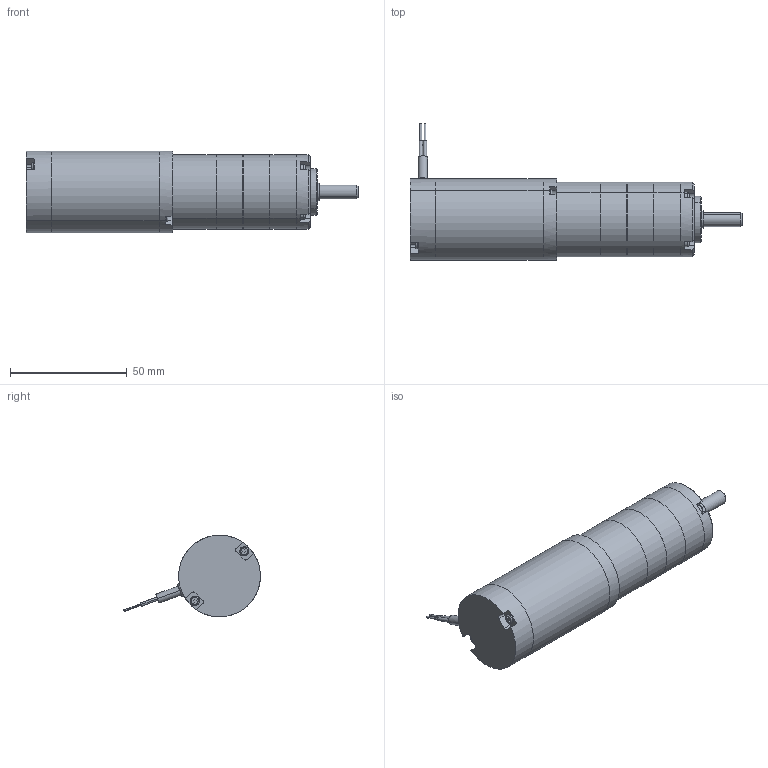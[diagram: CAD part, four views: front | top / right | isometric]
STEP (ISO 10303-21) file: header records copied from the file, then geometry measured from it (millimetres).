
FILE_DESCRIPTION (( 'STEP AP203' ), '1' );
FILE_NAME ('s14247gp3.step', '2018-12-07T19:52:15', ( '' ), ( '' ), 'SwSTEP 2.0', 'SolidWorks 2017', '' );
FILE_SCHEMA (( 'CONFIG_CONTROL_DESIGN' ));
Length unit declared in the file: inch
Products named in the file (1): s14247gp3
Bounding box: 141.91 x 58.45 x 34.91 mm (x, y, z)
Volume: 106412.6 mm3; surface area: 26491.9 mm2
Topology: 13 solids, 13 shells, 320 faces, 768 edges, 492 vertices
Faces by surface type: plane 171, cylinder 101, torus 29, cone 19
Entity records: 9411 total; most frequent: CARTESIAN_POINT 1677, DIRECTION 1662, ORIENTED_EDGE 1520, EDGE_CURVE 760, AXIS2_PLACEMENT_3D 597, VERTEX_POINT 492, VECTOR 468, LINE 468
